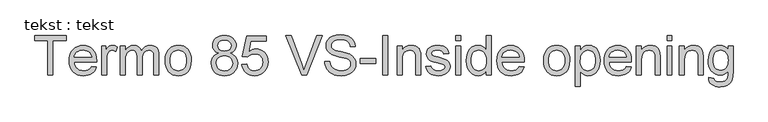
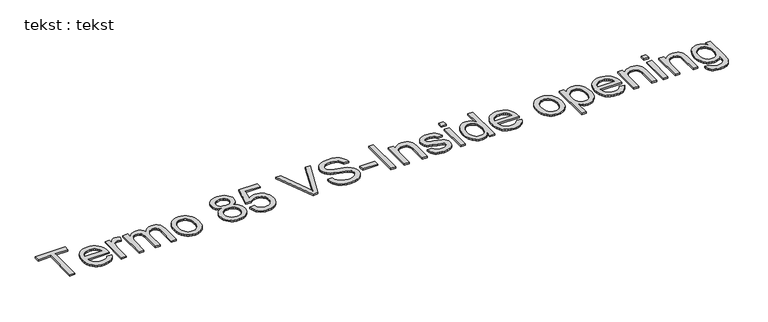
"""IFC4 building model written with IfcOpenShell, lengths in millimetres: proxy geometry, tekst : tekst."""

from ifc_helpers import new_model, si_unit, origin, origin_with_axes, place, context, project, spatial, polyline, outline, extrude, source, transform, mapped, element, save


def tekst_tekst_b85554be(model_context):
    return source(origin(), model_context, "Body", "SweptSolid", [
        extrude(outline(polyline([(-1216.6523051, 3.0111201), (-1216.6523051, 442.507477), (-1381.4634389, 442.507477), (-1381.4634389, 505.2926709), (-989.0559774, 505.2926709), (-989.0559774, 442.507477), (-1153.8671112, 442.507477), (-1153.8671112, 3.0111201), (-1216.6523051, 3.0111201)])), origin_with_axes(), (0.0, 0.0, 1.0), 20.0),
        extrude(outline(polyline([(-668.0176229, 112.8852093), (-606.4587024, 105.0370601), (-615.8971749, 80.3813022), (-628.638921, 58.6532719), (-644.683941, 39.8529691), (-664.0322347, 23.9803938), (-686.4845327, 11.3727713), (-711.8415656, 2.3673266), (-740.1033335, -3.0359402), (-771.2698363, -4.8370291), (-810.2270067, -1.7291927), (-844.9382058, 7.5943166), (-875.4034335, 23.1334988), (-901.6226899, 44.8883539), (-922.7069267, 72.2534094), (-937.7670959, 104.6231929), (-946.8031974, 141.9977043), (-949.8152312, 184.3769437), (-946.7725406, 228.1932222), (-937.6444686, 266.8131675), (-922.4310152, 300.2367796), (-901.1321805, 328.4640585), (-874.9819021, 350.8895318), (-845.2141173, 366.907727), (-811.8288262, 376.5186441), (-774.8260289, 379.7222832), (-739.0150159, 376.5263084), (-706.629904, 366.9383839), (-677.6706932, 350.9585097), (-652.1373835, 328.5866859), (-631.2945692, 300.4207206), (-616.4068447, 267.0584222), (-607.47421, 228.4997905), (-604.4966651, 184.7448257), (-604.8645471, 167.822254), (-887.0300374, 167.822254), (-883.3933706, 142.7679572), (-876.1621901, 120.8253291), (-865.336496, 101.9943695), (-850.9162882, 86.2750784), (-833.6986444, 73.8820537), (-814.4806423, 65.0298931), (-793.2622818, 59.7185968), (-770.0435629, 57.9481647), (-736.627615, 61.2284459), (-708.4846424, 71.0692892), (-685.614645, 88.0838315), (-668.0176229, 112.8852093)]), holes=[polyline([(-887.0300374, 230.6074478), (-667.2818589, 230.6074478), (-675.7738017, 263.778141), (-692.420462, 287.5065297), (-709.5423031, 300.3823996), (-729.0247205, 309.5794494), (-750.8677139, 315.0976794), (-775.0712835, 316.9370893), (-817.3930414, 311.0663058), (-835.8063017, 303.7278265), (-852.3878162, 293.4539553), (-866.3021862, 280.7198733), (-876.7140131, 266.0007614), (-883.6232968, 249.2966196), (-887.0300374, 230.6074478)])]), origin_with_axes(), (0.0, 0.0, 1.0), 20.0),
        extrude(outline(polyline([(-541.7114713, 3.0111201), (-541.7114713, 371.874134), (-486.7744266, 371.874134), (-486.7744266, 317.3049713), (-466.4796032, 348.9428229), (-447.7789352, 367.5821773), (-429.0169534, 376.6872567), (-408.538189, 379.7222832), (-377.2682194, 374.8785036), (-345.5077405, 360.3471648), (-366.4770142, 304.0612195), (-388.5499339, 313.7181219), (-410.6228536, 316.9370893), (-429.369507, 313.8407492), (-446.1234662, 304.5517288), (-459.6584579, 289.7751354), (-468.7482089, 270.216076), (-476.3817603, 235.1446591), (-478.9262774, 196.8849316), (-478.9262774, 3.0111201), (-541.7114713, 3.0111201)])), origin_with_axes(), (0.0, 0.0, 1.0), 20.0),
        extrude(outline(polyline([(-306.2669943, 3.0111201), (-306.2669943, 371.874134), (-243.4818005, 371.874134), (-243.4818005, 311.1736048), (-224.5971914, 339.0559943), (-200.3169797, 360.8989878), (-171.4688999, 375.0164593), (-138.8806865, 379.7222832), (-103.9625538, 374.9244888), (-75.9728654, 360.5311058), (-55.0649053, 337.4924958), (-41.3919578, 306.7590208), (-18.506632, 338.6804481), (7.5976612, 361.4814676), (36.9209219, 375.1620793), (69.4631501, 379.7222832), (94.597921, 377.8253916), (116.6593444, 372.134717), (135.6474203, 362.6502593), (151.5621486, 349.3720186), (164.1429465, 332.1467106), (173.1292306, 310.8210512), (178.5210011, 285.3950404), (180.3182579, 255.8686781), (180.3182579, 3.0111201), (117.5330641, 3.0111201), (117.5330641, 228.8906652), (116.0768645, 260.20662), (111.7082658, 281.3138495), (103.5228914, 295.7685462), (90.6163648, 307.1269028), (74.0156897, 314.4845427), (54.7478703, 316.9370893), (36.9554108, 315.3659267), (20.7341141, 310.6524386), (6.0839801, 302.7966252), (-6.9949913, 291.7984863), (-17.7517075, 277.3361254), (-25.4350763, 259.0876456), (-30.0450975, 237.0530469), (-31.5817713, 211.2323294), (-31.5817713, 3.0111201), (-94.3669651, 3.0111201), (-94.3669651, 235.8804231), (-97.9997998, 271.3810356), (-108.8983039, 296.7035796), (-117.3251009, 305.5557401), (-128.0741529, 311.8787119), (-156.5390223, 316.9370893), (-180.7272635, 313.5648377), (-203.014781, 303.4480829), (-221.4088808, 286.8320794), (-233.9168686, 263.962082), (-241.0905675, 232.23226), (-243.4818005, 189.0367824), (-243.4818005, 3.0111201), (-306.2669943, 3.0111201)])), origin_with_axes(), (0.0, 0.0, 1.0), 20.0),
        extrude(outline(polyline([(258.7997502, 187.442627), (262.1949945, 235.213637), (272.3807272, 276.3780994), (289.3569485, 310.9360143), (313.1236582, 338.8873817), (337.0513163, 356.7526511), (363.4621779, 369.5135578), (392.3562429, 377.1701018), (423.7335114, 379.7222832), (458.3719005, 376.6144467), (489.6916875, 367.2909374), (517.6928722, 351.7517552), (542.3754549, 329.9969002), (562.5208262, 302.7621362), (576.9103772, 270.7832274), (585.5441077, 234.0601736), (588.4220179, 192.592975), (583.3329837, 129.1639876), (576.9716908, 103.1286723), (568.0658809, 80.8794758), (556.7266848, 61.6614736), (543.0652336, 44.7197413), (527.0815273, 30.0542789), (508.775566, 17.6650863), (468.0479634, 0.7884997), (423.7335114, -4.8370291), (388.5892846, -1.740689), (356.9782577, 7.5483314), (328.9004308, 23.030032), (304.355804, 44.7044129), (284.4250305, 72.203592), (270.1887637, 105.1596875), (261.6470036, 143.5726991), (258.7997502, 187.442627)]), holes=[polyline([(321.5849441, 187.5652544), (323.4013614, 157.111523), (328.8506135, 130.7428145), (337.9327002, 108.4591291), (350.6476217, 90.2604666), (366.1139939, 76.1238346), (383.4504329, 66.0262402), (402.6569388, 59.9676836), (423.7335114, 57.9481647), (444.7027851, 59.9791799), (463.8326489, 66.0722255), (481.1231027, 76.2273014), (496.5741465, 90.4444076), (509.2890679, 108.823179), (518.3711547, 131.4632501), (523.8204067, 158.364621), (525.6368241, 189.5272917), (523.8089104, 219.0153329), (518.3251694, 244.6942625), (509.1856011, 266.5640807), (496.3902055, 284.6247874), (480.8816801, 298.7614195), (463.6027226, 308.8590139), (444.5533331, 314.9175705), (423.7335114, 316.9370893), (402.6569388, 314.9252347), (383.4504329, 308.8896707), (366.1139939, 298.8303974), (350.6476217, 284.7474148), (337.9327002, 266.6024018), (328.8506135, 244.3570374), (323.4013614, 218.0113216), (321.5849441, 187.5652544)])]), origin_with_axes(), (0.0, 0.0, 1.0), 20.0),
        extrude(outline(polyline([(931.0427828, 279.6583805), (897.4275655, 296.2130703), (873.8371325, 318.653872), (859.9036019, 346.5209331), (855.2590918, 379.3544012), (857.7882805, 404.9605209), (865.3758466, 428.4359907), (878.0217902, 449.7808106), (895.7261112, 468.9949807), (917.6380826, 484.8752201), (942.9069771, 496.2182483), (971.5327949, 503.0240652), (1003.5155358, 505.2926709), (1035.6515609, 502.9704158), (1064.4919765, 496.0036505), (1090.0367826, 484.392375), (1112.2859791, 468.1365894), (1130.3121968, 448.5468731), (1143.1880666, 426.9338059), (1150.9135885, 403.2973877), (1153.4887625, 377.6376185), (1148.905566, 345.8618112), (1135.1559764, 318.469931), (1112.0867096, 296.167085), (1079.5444815, 279.6583805), (1100.1803621, 270.87903), (1118.1874194, 259.7467675), (1133.5656532, 246.2615931), (1146.3150636, 230.4235068), (1156.3206875, 212.5850621), (1163.4675616, 193.0988127), (1169.185061, 149.1828995), (1166.3493039, 117.8669447), (1157.8420328, 89.1568207), (1143.6632476, 63.0525274), (1123.8129482, 39.554065), (1099.3334671, 20.1329613), (1071.2671366, 6.2607444), (1039.6139566, -2.0625857), (1004.3739271, -4.8370291), (969.1338977, -2.0510894), (937.4807177, 6.3067297), (909.4143871, 20.2364281), (884.934906, 39.738006), (865.0846067, 63.4012489), (850.9058215, 89.8159426), (842.3985503, 118.982087), (839.5627933, 150.8996822), (841.0496497, 174.7200414), (845.5102189, 196.5170496), (852.9445009, 216.2907068), (863.3524957, 234.0410131), (876.504277, 249.4460716), (892.1699186, 262.1839857), (910.3494205, 272.2547553), (931.0427828, 279.6583805)]), holes=[polyline([(918.0442856, 377.5149912), (923.6085008, 350.1077826), (940.3011463, 328.2188039), (952.6980031, 319.8494885), (967.6317129, 313.871406), (1005.1096911, 309.0889401), (1041.7139496, 313.8407492), (1056.3832442, 319.7805106), (1068.630649, 328.0961765), (1085.1853387, 349.2493913), (1090.7035687, 374.6945626), (1085.0013977, 401.1054242), (1067.894885, 422.9484176), (1055.3715687, 431.5055061), (1040.6103037, 437.6177122), (1004.3739271, 442.507477), (967.9076244, 437.7250111), (953.134863, 431.7469287), (940.6690283, 423.3776133), (923.7004713, 402.3470259), (918.0442856, 377.5149912)]), polyline([(902.3479871, 153.1069742), (904.9691464, 129.0873456), (912.832624, 105.8341378), (927.3486344, 85.5546428), (949.9273918, 70.4561526), (976.9667185, 61.0751617), (1004.8644365, 57.9481647), (1027.5658212, 59.5921374), (1047.6000616, 64.5240554), (1064.9671574, 72.7439187), (1079.6671088, 84.2517274), (1091.3626906, 98.296389), (1099.7166776, 114.1268111), (1104.7290697, 131.7429937), (1106.3998671, 151.1449368), (1104.6754203, 170.8572804), (1099.5020797, 188.7915277), (1090.8798455, 204.9476786), (1078.8087175, 219.3257333), (1063.7102273, 231.128614), (1046.0059063, 239.559243), (1025.6957544, 244.6176205), (1002.7797718, 246.3037463), (980.4117801, 244.6406131), (960.641955, 239.6512135), (943.4702964, 231.3355476), (928.8968045, 219.6936153), (917.2816969, 205.5531511), (908.9851915, 189.7418895), (904.0072882, 172.2598305), (902.3479871, 153.1069742)])]), origin_with_axes(), (0.0, 0.0, 1.0), 20.0),
        extrude(outline(polyline([(1224.1221056, 136.429657), (1286.9072994, 144.2778063), (1298.4342686, 106.5852302), (1307.4167207, 91.7511551), (1318.545151, 79.5918888), (1331.7965671, 70.1227595), (1347.1479761, 63.3590957), (1384.1507735, 57.9481647), (1408.0631032, 59.8297279), (1429.1550042, 65.4744172), (1447.4264767, 74.8822328), (1462.8775205, 88.0531747), (1475.1632463, 104.3357851), (1483.9387647, 123.0786063), (1489.2040757, 144.2816384), (1490.9591794, 167.9448813), (1489.3152068, 190.3090409), (1484.3832888, 210.1899971), (1476.1634254, 227.5877498), (1464.6556168, 242.502299), (1449.8215417, 254.466128), (1431.6228793, 263.0117202), (1410.0596294, 268.1390755), (1385.1317921, 269.848194), (1354.6742286, 267.1197358), (1330.0108065, 258.9343614), (1310.3137914, 246.3957168), (1294.7554487, 230.6074478), (1231.9702548, 238.455597), (1286.9072994, 497.4445216), (1530.1999256, 497.4445216), (1530.1999256, 434.6593278), (1337.6750148, 434.6593278), (1310.8196291, 296.3356976), (1332.9768551, 312.2159371), (1355.6705757, 323.5589653), (1378.9007908, 330.3647822), (1402.6675006, 332.6333878), (1433.2438593, 329.8206234), (1461.3293504, 321.3823301), (1486.9239738, 307.318508), (1510.0277295, 287.6291571), (1529.1537612, 263.517558), (1542.8152123, 236.1869914), (1551.012083, 205.6374574), (1553.7443733, 171.8689559), (1551.2841624, 139.3420562), (1543.9035299, 109.0837621), (1531.6024757, 81.0940736), (1514.3809998, 55.3729908), (1488.292035, 29.0311071), (1457.8497999, 10.2154759), (1423.0542945, -1.0739029), (1383.9055188, -4.8370291), (1351.5050785, -2.4189714), (1322.2392994, 4.8352017), (1296.1081814, 16.9254902), (1273.1117246, 33.8518941), (1253.9780288, 54.7713504), (1239.4351936, 78.8407964), (1229.4832192, 106.0602319), (1224.1221056, 136.429657)])), origin_with_axes(), (0.0, 0.0, 1.0), 20.0),
        extrude(outline(polyline([(1976.8086677, 3.0111201), (1776.926117, 505.2926709), (1844.1258948, 505.2926709), (1977.9123137, 143.4194149), (2005.012954, 61.8722394), (2031.7457123, 143.4194149), (2165.9000132, 505.2926709), (2233.099791, 505.2926709), (2041.6785262, 3.0111201), (1976.8086677, 3.0111201)])), origin_with_axes(), (0.0, 0.0, 1.0), 20.0),
        extrude(outline(polyline([(2267.9259532, 175.6704032), (2330.7111471, 175.6704032), (2337.9155028, 140.8289126), (2350.9446568, 112.8238957), (2371.270137, 90.5976918), (2400.3634715, 73.0926402), (2435.9253977, 61.7342836), (2475.6566532, 57.9481647), (2510.6360996, 60.8145786), (2541.2622757, 69.4138203), (2566.0789819, 83.0254541), (2583.6300188, 100.9290445), (2594.0686704, 121.484451), (2597.5482209, 143.051533), (2594.9423901, 164.0667919), (2587.1248977, 182.2309654), (2571.2446583, 197.7279945), (2544.4505863, 210.7418201), (2453.0319105, 234.7154634), (2393.02116, 250.5803745), (2354.6234768, 265.6788647), (2323.3688356, 286.8014226), (2301.2192738, 312.3998781), (2288.0215072, 341.9224082), (2283.6222517, 374.8171899), (2289.0638395, 411.590061), (2305.3886031, 445.8797287), (2317.5248768, 461.4074145), (2332.1673466, 474.9424063), (2368.9708746, 496.0343073), (2413.1473708, 508.8641919), (2462.0450194, 513.1408201), (2515.0200267, 508.6649225), (2561.3731581, 495.2372297), (2599.4489446, 473.1336531), (2614.7620326, 458.9318753), (2627.5919172, 442.6301044), (2645.4035371, 405.627307), (2652.4852655, 364.0259847), (2589.7000717, 364.0259847), (2585.5000856, 384.060225), (2578.1731025, 401.4886346), (2567.7191225, 416.3112133), (2554.1381455, 428.5279612), (2537.1772527, 438.0775647), (2516.5835251, 444.89871), (2464.497566, 450.3556263), (2411.1853335, 444.9600237), (2390.8062038, 438.2155204), (2374.6117318, 428.7732159), (2362.2723566, 417.4225235), (2353.4585171, 404.9528567), (2348.1702134, 391.3642155), (2346.4074455, 376.6565999), (2351.4045093, 352.5296724), (2366.3957006, 333.1238971), (2380.1606186, 324.4939987), (2401.8349995, 315.7721297), (2468.9121499, 298.0524803), (2538.1352787, 281.221879), (2580.0125125, 266.537256), (2615.8043649, 243.7592291), (2640.7743553, 215.6469133), (2655.4436499, 182.5068769), (2660.3334148, 144.6456883), (2654.7078859, 105.9414367), (2637.8312994, 69.5364476), (2610.3934339, 38.2051643), (2573.0840682, 14.7220303), (2528.2177932, 0.0527357), (2478.1091998, -4.8370291), (2416.5962645, 0.4359462), (2389.9209878, 7.0271652), (2365.9665049, 16.254872), (2344.5871961, 28.1343947), (2325.6374412, 42.6810619), (2309.1172404, 59.8948736), (2295.0265935, 79.7758298), (2283.6759012, 101.6801369), (2275.3755636, 124.9640015), (2270.125581, 149.6274236), (2267.9259532, 175.6704032)])), origin_with_axes(), (0.0, 0.0, 1.0), 20.0),
        extrude(outline(polyline([(2715.2704594, 152.1259555), (2715.2704594, 214.9111493), (2911.4741901, 214.9111493), (2911.4741901, 152.1259555), (2715.2704594, 152.1259555)])), origin_with_axes(), (0.0, 0.0, 1.0), 20.0),
        extrude(outline(polyline([(2997.8038317, 3.0111201), (2997.8038317, 505.2926709), (3060.5890255, 505.2926709), (3060.5890255, 3.0111201), (2997.8038317, 3.0111201)])), origin_with_axes(), (0.0, 0.0, 1.0), 20.0),
        extrude(outline(polyline([(3178.311264, 3.0111201), (3178.311264, 371.874134), (3241.0964578, 371.874134), (3241.0964578, 320.3706546), (3262.9087944, 346.3369921), (3289.1050582, 364.884376), (3319.685249, 376.0128064), (3354.649367, 379.7222832), (3385.5974398, 376.733242), (3413.9396819, 367.7661183), (3437.5761001, 353.9398867), (3454.4067013, 336.3735214), (3465.8263716, 315.1130078), (3473.2299968, 290.204331), (3476.5409347, 229.5038018), (3476.5409347, 3.0111201), (3413.7557409, 3.0111201), (3413.7557409, 221.0425159), (3411.9469877, 253.508102), (3406.5207283, 276.5926972), (3396.5112724, 293.1320586), (3380.9529296, 305.9619432), (3361.0106598, 314.1933028), (3337.8494225, 316.9370893), (3318.7847046, 315.3965835), (3301.0765514, 310.7750659), (3284.7249632, 303.0725366), (3269.7299398, 292.2889957), (3257.2027914, 277.1981697), (3248.2548283, 256.5737853), (3242.8860504, 230.4158426), (3241.0964578, 198.7243416), (3241.0964578, 3.0111201), (3178.311264, 3.0111201)])), origin_with_axes(), (0.0, 0.0, 1.0), 20.0),
        extrude(outline(polyline([(3539.3261286, 112.8852093), (3602.1113224, 120.7333586), (3612.0134794, 93.8779729), (3631.174, 74.1349725), (3659.7155115, 61.9948667), (3697.7606412, 57.9481647), (3735.3459183, 61.6576415), (3761.7721083, 72.7860719), (3777.4070931, 88.911566), (3782.6187547, 107.6122341), (3777.3764363, 123.6151009), (3761.649481, 135.8165204), (3697.0248772, 153.7201108), (3639.7272564, 170.290129), (3602.4792044, 184.4382574), (3578.5515463, 199.8739728), (3561.2151073, 220.3067519), (3550.6844852, 244.4336795), (3547.1742778, 270.9518399), (3549.9947064, 295.2780369), (3558.4559923, 317.734167), (3571.7917146, 337.4311822), (3589.2354526, 353.4800342), (3606.5718916, 363.5814606), (3629.1506491, 372.058075), (3655.2549423, 377.8062311), (3683.1679887, 379.7222832), (3724.033547, 376.6412715), (3759.5648163, 367.3982363), (3788.1369846, 352.8975544), (3808.1252397, 334.0436021), (3821.3689915, 309.4414937), (3829.7076501, 277.6963432), (3766.9224562, 269.848194), (3758.9976649, 289.6065228), (3743.3166949, 304.4904152), (3719.726262, 313.8254208), (3688.0730819, 316.9370893), (3652.0206464, 313.9633765), (3627.9856894, 305.0422382), (3614.4660261, 292.1663683), (3609.9594716, 277.3284612), (3611.8295384, 267.6715588), (3617.4397389, 259.0569888), (3627.0353276, 251.3621237), (3640.8615592, 245.2001003), (3694.9402125, 231.8337211), (3787.0946523, 202.2805342), (3811.4361777, 188.1477342), (3829.8915911, 168.8032726), (3841.5258592, 144.1858358), (3845.4039486, 114.23411), (3840.8514089, 83.2707087), (3827.1937898, 54.1467175), (3804.9522575, 29.1460702), (3774.6479781, 10.552701), (3738.0437196, -0.9895966), (3696.9022498, -4.8370291), (3663.1107557, -2.9822907), (3633.5958898, 2.5819245), (3608.3576521, 11.8556164), (3587.3960426, 24.8387852), (3570.2742014, 41.470117), (3556.5552687, 61.6882984), (3546.2392444, 85.4933291), (3539.3261286, 112.8852093)])), origin_with_axes(), (0.0, 0.0, 1.0), 20.0),
        extrude(outline(polyline([(3916.0372916, 3.0111201), (3916.0372916, 371.874134), (3978.8224855, 371.874134), (3978.8224855, 3.0111201), (3916.0372916, 3.0111201)])), origin_with_axes(), (0.0, 0.0, 1.0), 20.0),
        extrude(outline(polyline([(3916.0372916, 442.507477), (3916.0372916, 505.2926709), (3978.8224855, 505.2926709), (3978.8224855, 442.507477), (3916.0372916, 442.507477)])), origin_with_axes(), (0.0, 0.0, 1.0), 20.0),
        extrude(outline(polyline([(4300.5966039, 3.0111201), (4300.5966039, 62.2401213), (4281.8116295, 32.893868), (4259.0565953, 11.9322585), (4232.3315012, -0.6447072), (4201.6363472, -4.8370291), (4161.0467004, 1.2330238), (4123.8906189, 19.4431826), (4092.4367083, 48.5211886), (4068.9535743, 87.1947834), (4054.330265, 133.9004683), (4049.4558285, 187.074745), (4053.9470546, 239.5898999), (4067.4207326, 287.0160204), (4077.5221591, 308.1462425), (4089.8615343, 326.6553054), (4104.4388584, 342.543209), (4121.2541313, 355.8099535), (4159.2226189, 373.7442008), (4201.3910926, 379.7222832), (4232.1092391, 375.445655), (4259.2711931, 362.6157704), (4282.2944747, 342.9494121), (4300.5966039, 318.1633627), (4300.5966039, 505.2926709), (4363.3817978, 505.2926709), (4363.3817978, 3.0111201), (4300.5966039, 3.0111201)]), holes=[polyline([(4112.2410224, 187.3199997), (4114.0114545, 156.8739325), (4119.3227508, 130.5282167), (4128.1749113, 108.2828523), (4140.567936, 90.1378393), (4155.3675221, 76.0548567), (4171.4393668, 65.9955834), (4188.78347, 59.9600194), (4207.3998318, 57.9481647), (4226.104332, 59.8680489), (4243.3449684, 65.6277014), (4259.1217411, 75.2271222), (4273.4346499, 88.6663113), (4285.3180048, 106.0525677), (4293.8061154, 127.4931902), (4298.8989818, 152.9881789), (4300.5966039, 182.5375338), (4298.868325, 214.934142), (4293.6834881, 242.7168968), (4285.0420933, 265.8857983), (4272.9441406, 284.4408464), (4258.3169992, 298.6579527), (4242.0880383, 308.8130286), (4224.2572578, 314.9060742), (4204.8246578, 316.9370893), (4185.840414, 314.9865483), (4168.4963108, 309.1349254), (4152.7923481, 299.3822204), (4138.728526, 285.7284334), (4127.1402432, 267.8746603), (4118.8628983, 245.521997), (4113.8964914, 218.6704435), (4112.2410224, 187.3199997)])]), origin_with_axes(), (0.0, 0.0, 1.0), 20.0),
        extrude(outline(polyline([(4715.8127491, 112.8852093), (4777.3716697, 105.0370601), (4767.9331972, 80.3813022), (4755.191451, 58.6532719), (4739.1464311, 39.8529691), (4719.7981374, 23.9803938), (4697.3458394, 11.3727713), (4671.9888065, 2.3673266), (4643.7270386, -3.0359402), (4612.5605358, -4.8370291), (4573.6033654, -1.7291927), (4538.8921663, 7.5943166), (4508.4269386, 23.1334988), (4482.2076822, 44.8883539), (4461.1234454, 72.2534094), (4446.0632762, 104.6231929), (4437.0271747, 141.9977043), (4434.0151408, 184.3769437), (4437.0578315, 228.1932222), (4446.1859035, 266.8131675), (4461.3993569, 300.2367796), (4482.6981915, 328.4640585), (4508.84847, 350.8895318), (4538.6162548, 366.907727), (4572.0015459, 376.5186441), (4609.0043432, 379.7222832), (4644.8153562, 376.5263084), (4677.2004681, 366.9383839), (4706.1596789, 350.9585097), (4731.6929886, 328.5866859), (4752.5358029, 300.4207206), (4767.4235274, 267.0584222), (4776.3561621, 228.4997905), (4779.333707, 184.7448257), (4778.965825, 167.822254), (4496.8003347, 167.822254), (4500.4370015, 142.7679572), (4507.668182, 120.8253291), (4518.4938761, 101.9943695), (4532.9140839, 86.2750784), (4550.1317277, 73.8820537), (4569.3497298, 65.0298931), (4590.5680903, 59.7185968), (4613.7868091, 57.9481647), (4647.202757, 61.2284459), (4675.3457297, 71.0692892), (4698.215727, 88.0838315), (4715.8127491, 112.8852093)]), holes=[polyline([(4496.8003347, 230.6074478), (4716.5485131, 230.6074478), (4708.0565704, 263.778141), (4691.4099101, 287.5065297), (4674.2880689, 300.3823996), (4654.8056516, 309.5794494), (4632.9626581, 315.0976794), (4608.7590885, 316.9370893), (4566.4373307, 311.0663058), (4548.0240704, 303.7278265), (4531.4425559, 293.4539553), (4517.5281858, 280.7198733), (4507.116359, 266.0007614), (4500.2070752, 249.2966196), (4496.8003347, 230.6074478)])]), origin_with_axes(), (0.0, 0.0, 1.0), 20.0),
        extrude(outline(polyline([(5022.6263331, 187.442627), (5026.0215774, 235.213637), (5036.2073101, 276.3780994), (5053.1835313, 310.9360143), (5076.9502411, 338.8873817), (5100.8778992, 356.7526511), (5127.2887607, 369.5135578), (5156.1828258, 377.1701018), (5187.5600943, 379.7222832), (5222.1984834, 376.6144467), (5253.5182703, 367.2909374), (5281.5194551, 351.7517552), (5306.2020377, 329.9969002), (5326.3474091, 302.7621362), (5340.73696, 270.7832274), (5349.3706906, 234.0601736), (5352.2486008, 192.592975), (5347.1595665, 129.1639876), (5340.7982737, 103.1286723), (5331.8924637, 80.8794758), (5320.5532677, 61.6614736), (5306.8918165, 44.7197413), (5290.9081102, 30.0542789), (5272.6021488, 17.6650863), (5231.8745463, 0.7884997), (5187.5600943, -4.8370291), (5152.4158674, -1.740689), (5120.8048406, 7.5483314), (5092.7270137, 23.030032), (5068.1823869, 44.7044129), (5048.2516133, 72.203592), (5034.0153466, 105.1596875), (5025.4735865, 143.5726991), (5022.6263331, 187.442627)]), holes=[polyline([(5085.411527, 187.5652544), (5087.2279443, 157.111523), (5092.6771964, 130.7428145), (5101.7592831, 108.4591291), (5114.4742046, 90.2604666), (5129.9405768, 76.1238346), (5147.2770158, 66.0262402), (5166.4835216, 59.9676836), (5187.5600943, 57.9481647), (5208.529368, 59.9791799), (5227.6592318, 66.0722255), (5244.9496855, 76.2273014), (5260.4007293, 90.4444076), (5273.1156508, 108.823179), (5282.1977375, 131.4632501), (5287.6469896, 158.364621), (5289.463407, 189.5272917), (5287.6354933, 219.0153329), (5282.1517523, 244.6942625), (5273.012184, 266.5640807), (5260.2167883, 284.6247874), (5244.708263, 298.7614195), (5227.4293055, 308.8590139), (5208.379916, 314.9175705), (5187.5600943, 316.9370893), (5166.4835216, 314.9252347), (5147.2770158, 308.8896707), (5129.9405768, 298.8303974), (5114.4742046, 284.7474148), (5101.7592831, 266.6024018), (5092.6771964, 244.3570374), (5087.2279443, 218.0113216), (5085.411527, 187.5652544)])]), origin_with_axes(), (0.0, 0.0, 1.0), 20.0),
        extrude(outline(polyline([(5422.8819439, -138.255566), (5422.8819439, 371.874134), (5485.6671377, 371.874134), (5485.6671377, 310.3152134), (5506.1459021, 340.6808064), (5529.0772131, 362.3705157), (5555.8099715, 375.3843413), (5587.6930777, 379.7222832), (5609.5897206, 378.20477), (5630.1527913, 373.6522303), (5649.3822898, 366.0646641), (5667.278216, 355.4420715), (5683.4496954, 342.0603639), (5697.5058533, 326.1954529), (5719.2722047, 287.0160204), (5732.423986, 240.7548595), (5736.8079131, 190.2630557), (5731.8568346, 136.5676128), (5717.003599, 88.543684), (5705.9824676, 67.2678419), (5692.7233873, 48.6284875), (5677.2263583, 32.6256207), (5659.4913804, 19.2592416), (5620.7871289, 1.1870386), (5580.0901831, -4.8370291), (5551.2267749, -0.8056556), (5525.4597069, 11.288465), (5503.4021156, 29.544609), (5485.6671377, 52.0620528), (5485.6671377, -138.255566), (5422.8819439, -138.255566)]), holes=[polyline([(5485.6671377, 184.4995711), (5487.3647598, 154.241277), (5492.4576262, 128.2136258), (5500.9457368, 106.4166176), (5512.8290917, 88.8502523), (5527.1343364, 75.330589), (5542.8881164, 65.6736866), (5560.0904318, 59.8795452), (5578.7412825, 57.9481647), (5597.6603805, 59.9485231), (5615.1769284, 65.9495981), (5631.2909262, 75.9513899), (5646.0023739, 89.9538983), (5658.261275, 108.1563929), (5667.0176329, 130.7581429), (5672.2714477, 157.7591486), (5674.0227192, 189.1594097), (5672.3136008, 219.1571207), (5667.1862455, 245.1387866), (5658.6406533, 267.1044074), (5646.6768243, 285.0539831), (5632.3370907, 299.0028421), (5616.6637848, 308.9663128), (5599.6569068, 314.9443952), (5581.3164565, 316.9370893), (5563.0334877, 314.8179358), (5545.8311723, 308.460475), (5529.7095103, 297.8647072), (5514.6685017, 283.0306321), (5501.9804049, 264.1575193), (5492.9174787, 241.4446382), (5487.479723, 214.8919888), (5485.6671377, 184.4995711)])]), origin_with_axes(), (0.0, 0.0, 1.0), 20.0),
        extrude(outline(polyline([(6065.6944168, 112.8852093), (6127.2533373, 105.0370601), (6117.8148649, 80.3813022), (6105.0731187, 58.6532719), (6089.0280987, 39.8529691), (6069.6798051, 23.9803938), (6047.227507, 11.3727713), (6021.8704741, 2.3673266), (5993.6087062, -3.0359402), (5962.4422035, -4.8370291), (5923.485033, -1.7291927), (5888.7738339, 7.5943166), (5858.3086062, 23.1334988), (5832.0893498, 44.8883539), (5811.005113, 72.2534094), (5795.9449438, 104.6231929), (5786.9088423, 141.9977043), (5783.8968085, 184.3769437), (5786.9394991, 228.1932222), (5796.0675711, 266.8131675), (5811.2810245, 300.2367796), (5832.5798592, 328.4640585), (5858.7301377, 350.8895318), (5888.4979224, 366.907727), (5921.8832135, 376.5186441), (5958.8860108, 379.7222832), (5994.6970238, 376.5263084), (6027.0821357, 366.9383839), (6056.0413465, 350.9585097), (6081.5746562, 328.5866859), (6102.4174705, 300.4207206), (6117.305195, 267.0584222), (6126.2378297, 228.4997905), (6129.2153746, 184.7448257), (6128.8474926, 167.822254), (5846.6820023, 167.822254), (5850.3186691, 142.7679572), (5857.5498496, 120.8253291), (5868.3755437, 101.9943695), (5882.7957515, 86.2750784), (5900.0133953, 73.8820537), (5919.2313974, 65.0298931), (5940.4497579, 59.7185968), (5963.6684768, 57.9481647), (5997.0844247, 61.2284459), (6025.2273973, 71.0692892), (6048.0973947, 88.0838315), (6065.6944168, 112.8852093)]), holes=[polyline([(5846.6820023, 230.6074478), (6066.4301808, 230.6074478), (6057.938238, 263.778141), (6041.2915778, 287.5065297), (6024.1697366, 300.3823996), (6004.6873192, 309.5794494), (5982.8443258, 315.0976794), (5958.6407562, 316.9370893), (5916.3189983, 311.0663058), (5897.905738, 303.7278265), (5881.3242235, 293.4539553), (5867.4098535, 280.7198733), (5856.9980266, 266.0007614), (5850.0887429, 249.2966196), (5846.6820023, 230.6074478)])]), origin_with_axes(), (0.0, 0.0, 1.0), 20.0),
        extrude(outline(polyline([(6192.0005685, 3.0111201), (6192.0005685, 371.874134), (6254.7857623, 371.874134), (6254.7857623, 320.3706546), (6276.5980989, 346.3369921), (6302.7943627, 364.884376), (6333.3745535, 376.0128064), (6368.3386715, 379.7222832), (6399.2867443, 376.733242), (6427.6289864, 367.7661183), (6451.2654046, 353.9398867), (6468.0960058, 336.3735214), (6479.5156761, 315.1130078), (6486.9193013, 290.204331), (6490.2302392, 229.5038018), (6490.2302392, 3.0111201), (6427.4450454, 3.0111201), (6427.4450454, 221.0425159), (6425.6362922, 253.508102), (6420.2100328, 276.5926972), (6410.2005768, 293.1320586), (6394.6422341, 305.9619432), (6374.6999643, 314.1933028), (6351.538727, 316.9370893), (6332.4740091, 315.3965835), (6314.7658559, 310.7750659), (6298.4142677, 303.0725366), (6283.4192443, 292.2889957), (6270.8920959, 277.1981697), (6261.9441328, 256.5737853), (6256.5753549, 230.4158426), (6254.7857623, 198.7243416), (6254.7857623, 3.0111201), (6192.0005685, 3.0111201)])), origin_with_axes(), (0.0, 0.0, 1.0), 20.0),
        extrude(outline(polyline([(6576.5598807, 3.0111201), (6576.5598807, 371.874134), (6639.3450746, 371.874134), (6639.3450746, 3.0111201), (6576.5598807, 3.0111201)])), origin_with_axes(), (0.0, 0.0, 1.0), 20.0),
        extrude(outline(polyline([(6576.5598807, 442.507477), (6576.5598807, 505.2926709), (6639.3450746, 505.2926709), (6639.3450746, 442.507477), (6576.5598807, 442.507477)])), origin_with_axes(), (0.0, 0.0, 1.0), 20.0),
        extrude(outline(polyline([(6733.5228654, 3.0111201), (6733.5228654, 371.874134), (6796.3080592, 371.874134), (6796.3080592, 320.3706546), (6818.1203958, 346.3369921), (6844.3166596, 364.884376), (6874.8968504, 376.0128064), (6909.8609684, 379.7222832), (6940.8090412, 376.733242), (6969.1512833, 367.7661183), (6992.7877015, 353.9398867), (7009.6183027, 336.3735214), (7021.037973, 315.1130078), (7028.4415982, 290.204331), (7031.7525361, 229.5038018), (7031.7525361, 3.0111201), (6968.9673423, 3.0111201), (6968.9673423, 221.0425159), (6967.1585891, 253.508102), (6961.7323297, 276.5926972), (6951.7228737, 293.1320586), (6936.164531, 305.9619432), (6916.2222612, 314.1933028), (6893.0610239, 316.9370893), (6873.996306, 315.3965835), (6856.2881528, 310.7750659), (6839.9365646, 303.0725366), (6824.9415412, 292.2889957), (6812.4143928, 277.1981697), (6803.4664297, 256.5737853), (6798.0976518, 230.4158426), (6796.3080592, 198.7243416), (6796.3080592, 3.0111201), (6733.5228654, 3.0111201)])), origin_with_axes(), (0.0, 0.0, 1.0), 20.0),
        extrude(outline(polyline([(7102.3858792, -28.3814768), (7165.171073, -36.229626), (7172.0995173, -55.8499991), (7185.5272101, -69.3390056), (7211.9227432, -79.8236425), (7246.472994, -83.3185214), (7283.3225071, -79.36379), (7310.7297158, -67.4995956), (7329.7369522, -48.4923592), (7341.3865487, -23.1085015), (7344.7894572, 3.9001683), (7345.6785053, 50.1000155), (7324.7858737, 29.4986238), (7301.4713522, 14.783344), (7275.734941, 5.9541761), (7247.5766399, 3.0111201), (7213.1528487, 6.4370212), (7182.8447372, 16.7147244), (7156.6523056, 33.8442298), (7134.5755538, 57.8255374), (7117.0590058, 86.5969751), (7104.5471859, 118.0968709), (7097.0400939, 152.3252249), (7094.53773, 189.282037), (7099.028956, 239.9731103), (7112.5026341, 286.5868247), (7134.4835833, 326.088154), (7148.4860917, 342.0335392), (7164.4966227, 355.4420715), (7182.2584253, 366.0646641), (7201.5147485, 373.6522303), (7222.2655923, 378.20477), (7244.5109567, 379.7222832), (7273.8725384, 376.2887179), (7300.5209904, 365.988022), (7324.4563127, 348.8201956), (7345.6785053, 324.7852386), (7345.6785053, 371.874134), (7408.4636992, 371.874134), (7408.4636992, 53.4109535), (7404.1717426, -20.1194603), (7398.8067968, -47.4691874), (7391.2958727, -68.5419279), (7369.1156541, -100.6549604), (7336.9106511, -125.2570689), (7317.2251323, -134.3774767), (7295.3859709, -140.8920537), (7245.2467206, -146.1037153), (7214.4864209, -144.2681374), (7186.8301255, -138.7614038), (7162.2778344, -129.5835144), (7140.8295477, -116.7344693), (7123.504605, -100.19894), (7111.322346, -79.9615982), (7104.2827707, -56.0224438), (7102.3858792, -28.3814768)]), holes=[polyline([(7157.3229238, 193.5739936), (7158.9975533, 162.5301182), (7164.0214418, 135.985133), (7172.3945893, 113.939038), (7184.1169958, 96.3918332), (7198.368591, 83.0062936), (7214.3293046, 73.4451938), (7231.9991367, 67.7085339), (7251.3780872, 65.796314), (7270.5654325, 67.6970376), (7288.1509583, 73.3992085), (7304.1346646, 82.9028267), (7318.5165514, 96.2078922), (7330.3999062, 113.5826523), (7338.8880168, 135.2953542), (7343.9808832, 161.345998), (7345.6785053, 191.7345836), (7343.9310659, 220.8547428), (7338.6887474, 246.1657905), (7329.95155, 267.6677267), (7317.7194737, 285.3605514), (7303.0271865, 299.1752868), (7286.9093566, 309.0429549), (7269.365984, 314.9635557), (7250.3970686, 316.9370893), (7231.7462178, 314.9942126), (7214.5439025, 309.1655822), (7198.7901224, 299.4511983), (7184.4848778, 285.8510607), (7172.6015229, 268.4264833), (7164.1134123, 247.2387797), (7159.0205459, 222.2879498), (7157.3229238, 193.5739936)])]), origin_with_axes(), (0.0, 0.0, 1.0), 20.0),
    ])


if __name__ == "__main__":
    model = new_model("IFC4")
    model_context = context("Model", 3, world=origin())
    ifc_project = project(units=[si_unit("LENGTHUNIT", "METRE", prefix="MILLI")], contexts=[model_context])
    site = spatial("IfcSite", under=ifc_project)
    building = spatial("IfcBuilding", under=site)
    placement = place(None, origin())
    tekst_tekst_shape = tekst_tekst_b85554be(model_context)
    element("IfcBuildingElementProxy", 1, Name="tekst : tekst", ObjectType="tekst : tekst", at=placement, inside=building, context=model_context, shape_type="MappedRepresentation", body=[
        mapped(tekst_tekst_shape, transform((0.0, 0.0, 0.0), x_axis=(1.0, 0.0, 0.0), y_axis=(0.0, 1.0, 0.0), z_axis=(0.0, 0.0, 1.0))),
    ])
    save(model, "model.ifc")
